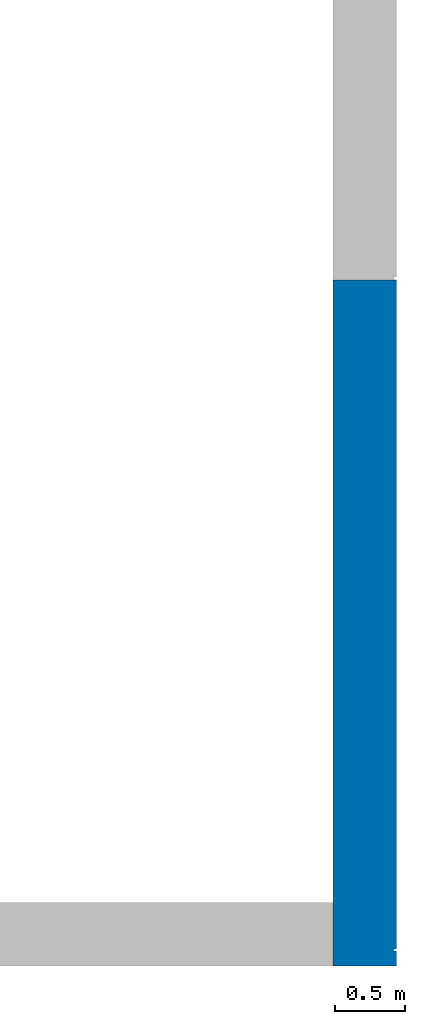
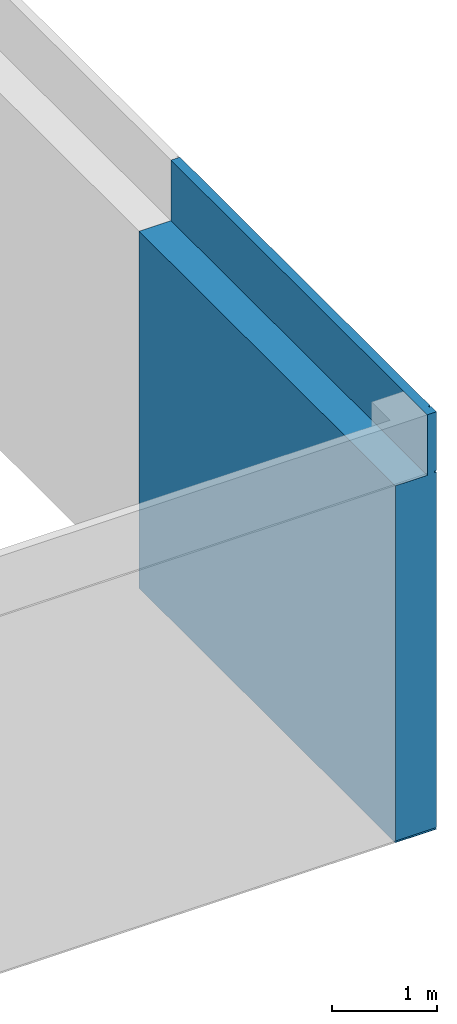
# One storey, part 18 of 33: 1 wall, 3 openings.
"""IFC2X3 building model written with IfcOpenShell, lengths in millimetres."""

from ifc_helpers import new_model, entity, si_unit, converted_unit, derived_unit, direction, frame, frame_2d, origin, origin_2d_with_axis, place, context, subcontext, project, spatial, polyline, rectangle, extrude, clip, bounded_halfspace, faceted_brep, material, layer, layer_set, layer_usage, type_object, element, save


model = new_model("IFC2X3")

# Units and contexts
model_context = context("Model", 3, precision=0.01, world=origin(), true_north=direction((6.12303176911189e-17, 1.0)))
body_context = subcontext(model_context, "Body", "Model", "MODEL_VIEW")
ifc_project = project(units=[si_unit("LENGTHUNIT", "METRE", prefix="MILLI"), si_unit("AREAUNIT", "SQUARE_METRE"), si_unit("VOLUMEUNIT", "CUBIC_METRE"), converted_unit("PLANEANGLEUNIT", "DEGREE", entity("IfcRatioMeasure", 0.0174532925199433), si_unit("PLANEANGLEUNIT", "RADIAN"), dimensions=[0, 0, 0, 0, 0, 0, 0]), si_unit("MASSUNIT", "GRAM", prefix="KILO"), derived_unit("MASSDENSITYUNIT", [(si_unit("MASSUNIT", "GRAM", prefix="KILO"), 1), (si_unit("LENGTHUNIT", "METRE"), -3)]), si_unit("TIMEUNIT", "SECOND"), si_unit("FREQUENCYUNIT", "HERTZ"), si_unit("THERMODYNAMICTEMPERATUREUNIT", "DEGREE_CELSIUS"), derived_unit("THERMALTRANSMITTANCEUNIT", [(si_unit("MASSUNIT", "GRAM", prefix="KILO"), 1), (si_unit("THERMODYNAMICTEMPERATUREUNIT", "KELVIN"), -1), (si_unit("TIMEUNIT", "SECOND"), -3)]), derived_unit("VOLUMETRICFLOWRATEUNIT", [(si_unit("LENGTHUNIT", "METRE"), 3), (si_unit("TIMEUNIT", "SECOND"), -1)]), si_unit("ELECTRICCURRENTUNIT", "AMPERE"), si_unit("ELECTRICVOLTAGEUNIT", "VOLT"), si_unit("POWERUNIT", "WATT"), si_unit("FORCEUNIT", "NEWTON", prefix="KILO"), si_unit("ILLUMINANCEUNIT", "LUX"), si_unit("LUMINOUSFLUXUNIT", "LUMEN"), si_unit("LUMINOUSINTENSITYUNIT", "CANDELA"), derived_unit("USERDEFINED", [(si_unit("MASSUNIT", "GRAM", prefix="KILO"), -1), (si_unit("LENGTHUNIT", "METRE"), -2), (si_unit("TIMEUNIT", "SECOND"), 3), (si_unit("LUMINOUSFLUXUNIT", "LUMEN"), 1)]), derived_unit("LINEARVELOCITYUNIT", [(si_unit("LENGTHUNIT", "METRE"), 1), (si_unit("TIMEUNIT", "SECOND"), -1)]), si_unit("PRESSUREUNIT", "PASCAL"), derived_unit("USERDEFINED", [(si_unit("LENGTHUNIT", "METRE"), -2), (si_unit("MASSUNIT", "GRAM", prefix="KILO"), 1), (si_unit("TIMEUNIT", "SECOND"), -2)])], contexts=[model_context])

# Site, building, storey
site_placement = place(None, origin())
site = spatial("IfcSite", under=ifc_project, at=site_placement, Name="Default", CompositionType="ELEMENT")
building_placement = place(site_placement, origin())
building = spatial("IfcBuilding", under=site, at=building_placement, CompositionType="ELEMENT")
storey_placement = place(building_placement, frame((0.0, 0.0, 4000.0)))
storey = spatial("IfcBuildingStorey", under=building, at=storey_placement, Name="2. KORRUS", CompositionType="ELEMENT", Elevation=4000.0)

# Wall, openings
ifc_material_1 = material(Name="RECKLI 1 173 THUR by Polantis 2016-toon4")
ifc_layer_1 = layer(ifc_material_1, 100.0)
ifc_material_2 = material(Name="Soojusisolatsioon EPS")
ifc_layer_2 = layer(ifc_material_2, 200.0)
ifc_material_3 = material(Name="r/b")
ifc_layer_3 = layer(ifc_material_3, 150.0)
ifc_layer_set = layer_set([ifc_layer_1, ifc_layer_2, ifc_layer_3], Name="Basic Wall:VS-1_toon-a")
ifc_layer_usage = layer_usage(ifc_layer_set, "AXIS2", "NEGATIVE", 225.0)
wall_type = type_object("IfcWallType", Name="Basic Wall:VS-1_toon-a", PredefinedType="STANDARD", material=ifc_layer_set)
wall_placement = place(storey_placement, frame((39725.0, 4415.0, -135.0), z_axis=(0.0, 0.0, 1.0), x_axis=(0.0, -1.0, 0.0)))
wall = element("IfcWallStandardCase", 1, at=wall_placement, inside=storey, type_object=wall_type, material=ifc_layer_usage, Name="Basic Wall:VS-1_toon-a", ObjectType="Basic Wall:VS-1_toon-a", context=body_context, shape_type="Clipping", body=[
    clip(extrude(rectangle(XDim=4865.0, YDim=450.000000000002, at=frame_2d((2432.5, -3.5527136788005e-13), x_axis=(-1.0, 0.0))), origin(), (0.0, 0.0, 1.0), 4835.0), bounded_halfspace(frame((0.0, -225.0, 4135.0), z_axis=(0.0, 0.0, 1.0), x_axis=(0.0, 1.0, 0.0)), False, frame((0.0, -225.0, 4135.0)), polyline([(0.0, 0.0), (4415.0, 0.0), (4865.0, 0.0), (4865.0, 350.0), (4765.0, 350.0), (0.0, 350.0), (0.0, 0.0)]))),
])
opening_1_placement = place(wall_placement, origin())
element("IfcOpeningElement", 2, at=opening_1_placement, cuts=wall, Name="Basic Wall:VS-1_toon-a", ObjectType="Recess", context=body_context, shape_type="SweptSolid", body=[
    extrude(rectangle(XDim=4265.0, YDim=16.0, at=origin_2d_with_axis()), frame((4752.99988172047, 205.0, -2132.5), z_axis=(0.0, 1.0, 0.0), x_axis=(0.0, 0.0, 1.0)), (0.0, 0.0, 1.0), 20.0000000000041),
    extrude(rectangle(XDim=4835.0, YDim=16.0, at=frame_2d((2.27373675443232e-13, 0.0), x_axis=(1.0, 0.0))), frame((4752.99988172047, 205.0, 2417.5), z_axis=(0.0, 1.0, 0.0), x_axis=(0.0, 0.0, 1.0)), (0.0, 0.0, 1.0), 20.0000000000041),
])
opening_2_placement = place(wall_placement, frame((4865.0, -40175.0, 4.0)))
element("IfcOpeningElement", 3, at=opening_2_placement, cuts=wall, Name="Basic Wall:VS-1_toon-a", ObjectType="Opening", context=body_context, shape_type="Brep", body=[
    faceted_brep([(-20.0, 11850.0, 16.0), (0.0, 11850.0, 16.0), (0.0, 11850.0, 0.0), (-20.0, 11850.0, 0.0), (-20.0, 4260.0, 16.0), (-20.0, 4260.0, 0.0), (0.0, 4260.0, 0.0), (0.0, 4260.0, 16.0)], [[[0, 1, 2, 3]], [[4, 5, 6, 7]], [[1, 0, 4, 7]], [[2, 1, 7, 6]], [[3, 2, 6, 5]], [[0, 3, 5, 4]]]),
    faceted_brep([(-28480.0, 20.0, 16.0), (-28480.0, 20.0, 0.0), (-28500.0, 0.0, 0.0), (-28500.0, 0.0, 16.0), (-23740.0, 20.0, 16.0), (-23740.0, 0.0, 16.0), (-23740.0, 0.0, 0.0), (-23740.0, 20.0, 0.0)], [[[0, 1, 2, 3]], [[4, 5, 6, 7]], [[1, 0, 4, 7]], [[2, 1, 7, 6]], [[3, 2, 6, 5]], [[0, 3, 5, 4]]]),
    faceted_brep([(-22380.0517807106, 10080.0, 16.0), (-22400.0517807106, 10100.0, 16.0), (-22400.0517807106, 10100.0, 0.0), (-22380.0517807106, 10080.0, 0.0), (-22380.0517807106, 15330.3475962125, 16.0), (-22380.0517807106, 15330.3475962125, 0.0), (-22400.0517807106, 15330.3475962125, 0.0), (-22400.0517807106, 15330.3475962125, 16.0)], [[[0, 1, 2, 3]], [[4, 5, 6, 7]], [[1, 0, 4, 7]], [[2, 1, 7, 6]], [[3, 2, 6, 5]], [[0, 3, 5, 4]]]),
    faceted_brep([(-28480.0, 20.0, 16.0), (-28500.0, 0.0, 16.0), (-28500.0, 0.0, 0.0), (-28480.0, 20.0, 0.0), (-28480.0, 4360.0, 16.0), (-28480.0, 4360.0, 0.0), (-28500.0, 4360.0, 0.0), (-28500.0, 4360.0, 16.0)], [[[0, 1, 2, 3]], [[4, 5, 6, 7]], [[1, 0, 4, 7]], [[2, 1, 7, 6]], [[3, 2, 6, 5]], [[0, 3, 5, 4]]]),
    faceted_brep([(-20.0, 40380.0, 16.0), (0.0, 40400.0, 16.0), (0.0, 40400.0, 0.0), (-20.0, 40380.0, 0.0), (-20.0, 35250.0, 16.0), (-20.0, 35250.0, 0.0), (0.0, 35250.0, 0.0), (0.0, 35250.0, 16.0)], [[[0, 1, 2, 3]], [[4, 5, 6, 7]], [[1, 0, 4, 7]], [[2, 1, 7, 6]], [[3, 2, 6, 5]], [[0, 3, 5, 4]]]),
    faceted_brep([(-22380.0517807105, 34420.1035702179, 16.0), (-22400.0517807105, 34420.1035702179, 16.0), (-22400.0517807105, 34420.1035702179, 0.0), (-22380.0517807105, 34420.1035702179, 0.0), (-22380.0517807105, 40380.0, 16.0), (-22380.0517807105, 40380.0, 0.0), (-22400.0517807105, 40400.0, 0.0), (-22400.0517807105, 40400.0, 16.0)], [[[0, 1, 2, 3]], [[4, 5, 6, 7]], [[1, 0, 4, 7]], [[2, 1, 7, 6]], [[3, 2, 6, 5]], [[0, 3, 5, 4]]]),
    faceted_brep([(-22380.0517807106, 29113.2161487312, 16.0), (-22400.0517807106, 29113.2161487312, 16.0), (-22400.0517807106, 29113.2161487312, 0.0), (-22380.0517807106, 29113.2161487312, 0.0), (-22380.0517807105, 34420.1035702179, 16.0), (-22380.0517807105, 34420.1035702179, 0.0), (-22400.0517807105, 34420.1035702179, 0.0), (-22400.0517807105, 34420.1035702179, 16.0)], [[[0, 1, 2, 3]], [[4, 5, 6, 7]], [[1, 0, 4, 7]], [[2, 1, 7, 6]], [[3, 2, 6, 5]], [[0, 3, 5, 4]]]),
    faceted_brep([(-28480.0, 10080.0, 16.0), (-28500.0, 10100.0, 16.0), (-28500.0, 10100.0, 0.0), (-28480.0, 10080.0, 0.0), (-22380.0517807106, 10080.0, 16.0), (-22380.0517807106, 10080.0, 0.0), (-22400.0517807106, 10100.0, 0.0), (-22400.0517807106, 10100.0, 16.0)], [[[0, 1, 2, 3]], [[4, 5, 6, 7]], [[1, 0, 4, 7]], [[2, 1, 7, 6]], [[3, 2, 6, 5]], [[0, 3, 5, 4]]]),
    faceted_brep([(-20.0, 4260.0, 16.0), (0.0, 4260.0, 16.0), (0.0, 4260.0, 0.0), (-20.0, 4260.0, 0.0), (-20.0, 0.0, 16.0), (-20.0, 0.0, 0.0), (0.0, 0.0, 0.0), (0.0, 0.0, 16.0)], [[[0, 1, 2, 3]], [[4, 5, 6, 7]], [[1, 0, 4, 7]], [[2, 1, 7, 6]], [[3, 2, 6, 5]], [[0, 3, 5, 4]]]),
    faceted_brep([(-4865.0, 40380.0, 16.0), (-4865.0, 40400.0, 16.0), (-4865.0, 40400.0, 0.0), (-4865.0, 40380.0, 0.0), (-20.0, 40380.0, 16.0), (-20.0, 40380.0, 0.0), (0.0, 40400.0, 0.0), (0.0, 40400.0, 16.0)], [[[0, 1, 2, 3]], [[4, 5, 6, 7]], [[1, 0, 4, 7]], [[2, 1, 7, 6]], [[3, 2, 6, 5]], [[0, 3, 5, 4]]]),
    faceted_brep([(-9093.3300000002, 40380.0, 16.0), (-9093.3300000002, 40400.0, 16.0), (-9093.3300000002, 40400.0, 0.0), (-9093.3300000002, 40380.0, 0.0), (-4865.0, 40380.0, 16.0), (-4865.0, 40380.0, 0.0), (-4865.0, 40400.0, 0.0), (-4865.0, 40400.0, 16.0)], [[[0, 1, 2, 3]], [[4, 5, 6, 7]], [[1, 0, 4, 7]], [[2, 1, 7, 6]], [[3, 2, 6, 5]], [[0, 3, 5, 4]]]),
    faceted_brep([(-13210.0, 40380.0, 16.0), (-13210.0, 40400.0, 16.0), (-13210.0, 40400.0, 0.0), (-13210.0, 40380.0, 0.0), (-9093.3300000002, 40380.0, 16.0), (-9093.3300000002, 40380.0, 0.0), (-9093.3300000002, 40400.0, 0.0), (-9093.3300000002, 40400.0, 16.0)], [[[0, 1, 2, 3]], [[4, 5, 6, 7]], [[1, 0, 4, 7]], [[2, 1, 7, 6]], [[3, 2, 6, 5]], [[0, 3, 5, 4]]]),
    faceted_brep([(-16240.0, 40380.0, 16.0), (-16240.0, 40400.0, 16.0), (-16240.0, 40400.0, 0.0), (-16240.0, 40380.0, 0.0), (-13210.0, 40380.0, 16.0), (-13210.0, 40380.0, 0.0), (-13210.0, 40400.0, 0.0), (-13210.0, 40400.0, 16.0)], [[[0, 1, 2, 3]], [[4, 5, 6, 7]], [[1, 0, 4, 7]], [[2, 1, 7, 6]], [[3, 2, 6, 5]], [[0, 3, 5, 4]]]),
    faceted_brep([(-22380.0517807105, 40380.0, 16.0), (-22400.0517807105, 40400.0, 16.0), (-22400.0517807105, 40400.0, 0.0), (-22380.0517807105, 40380.0, 0.0), (-16240.0, 40380.0, 16.0), (-16240.0, 40380.0, 0.0), (-16240.0, 40400.0, 0.0), (-16240.0, 40400.0, 16.0)], [[[0, 1, 2, 3]], [[4, 5, 6, 7]], [[1, 0, 4, 7]], [[2, 1, 7, 6]], [[3, 2, 6, 5]], [[0, 3, 5, 4]]]),
    faceted_brep([(-22380.0517807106, 22535.0, 16.0), (-22400.0517807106, 22535.0, 16.0), (-22400.0517807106, 22535.0, 0.0), (-22380.0517807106, 22535.0, 0.0), (-22380.0517807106, 29113.2161487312, 16.0), (-22380.0517807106, 29113.2161487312, 0.0), (-22400.0517807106, 29113.2161487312, 0.0), (-22400.0517807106, 29113.2161487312, 16.0)], [[[0, 1, 2, 3]], [[4, 5, 6, 7]], [[1, 0, 4, 7]], [[2, 1, 7, 6]], [[3, 2, 6, 5]], [[0, 3, 5, 4]]]),
    faceted_brep([(-22380.0517807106, 18703.3528910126, 16.0), (-22400.0517807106, 18703.3528910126, 16.0), (-22400.0517807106, 18703.3528910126, 0.0), (-22380.0517807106, 18703.3528910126, 0.0), (-22380.0517807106, 22535.0, 16.0), (-22380.0517807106, 22535.0, 0.0), (-22400.0517807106, 22535.0, 0.0), (-22400.0517807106, 22535.0, 16.0)], [[[0, 1, 2, 3]], [[4, 5, 6, 7]], [[1, 0, 4, 7]], [[2, 1, 7, 6]], [[3, 2, 6, 5]], [[0, 3, 5, 4]]]),
    faceted_brep([(-22380.0517807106, 15330.3475962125, 16.0), (-22400.0517807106, 15330.3475962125, 16.0), (-22400.0517807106, 15330.3475962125, 0.0), (-22380.0517807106, 15330.3475962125, 0.0), (-22380.0517807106, 18703.3528910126, 16.0), (-22380.0517807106, 18703.3528910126, 0.0), (-22400.0517807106, 18703.3528910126, 0.0), (-22400.0517807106, 18703.3528910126, 16.0)], [[[0, 1, 2, 3]], [[4, 5, 6, 7]], [[1, 0, 4, 7]], [[2, 1, 7, 6]], [[3, 2, 6, 5]], [[0, 3, 5, 4]]]),
    faceted_brep([(-28480.0, 4360.0, 16.0), (-28500.0, 4360.0, 16.0), (-28500.0, 4360.0, 0.0), (-28480.0, 4360.0, 0.0), (-28480.0, 10080.0, 16.0), (-28480.0, 10080.0, 0.0), (-28500.0, 10100.0, 0.0), (-28500.0, 10100.0, 16.0)], [[[0, 1, 2, 3]], [[4, 5, 6, 7]], [[1, 0, 4, 7]], [[2, 1, 7, 6]], [[3, 2, 6, 5]], [[0, 3, 5, 4]]]),
    faceted_brep([(-23740.0, 20.0, 16.0), (-23740.0, 20.0, 0.0), (-23740.0, 0.0, 0.0), (-23740.0, 0.0, 16.0), (-16890.0006972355, 20.0, 16.0), (-16890.0006972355, 0.0, 16.0), (-16890.0006972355, 0.0, 0.0), (-16890.0006972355, 20.0, 0.0)], [[[0, 1, 2, 3]], [[4, 5, 6, 7]], [[1, 0, 4, 7]], [[2, 1, 7, 6]], [[3, 2, 6, 5]], [[0, 3, 5, 4]]]),
    faceted_brep([(-16890.0006972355, 20.0, 16.0), (-16890.0006972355, 20.0, 0.0), (-16890.0006972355, 0.0, 0.0), (-16890.0006972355, 0.0, 16.0), (-13460.0, 20.0, 16.0), (-13460.0, 0.0, 16.0), (-13460.0, 0.0, 0.0), (-13460.0, 20.0, 0.0)], [[[0, 1, 2, 3]], [[4, 5, 6, 7]], [[1, 0, 4, 7]], [[2, 1, 7, 6]], [[3, 2, 6, 5]], [[0, 3, 5, 4]]]),
])
opening_3_placement = place(wall_placement, origin())
element("IfcOpeningElement", 4, at=opening_3_placement, cuts=wall, Name="Basic Wall:VS-1_toon-a", ObjectType="Recess", context=body_context, shape_type="SweptSolid", body=[
    extrude(rectangle(XDim=15.9999999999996, YDim=20.0, at=frame_2d((-3.37507799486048e-14, 5.40900657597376e-13), x_axis=(0.0, 1.0))), frame((4855.0, -35915.0, 4147.0), z_axis=(0.0, 1.0, 0.0), x_axis=(1.0, 0.0, 0.0)), (0.0, 0.0, 1.0), 7590.0),
    extrude(rectangle(XDim=15.9999999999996, YDim=4660.0, at=frame_2d((-2.27373675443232e-12, 5.40900657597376e-13), x_axis=(0.0, 1.0))), frame((-21205.0, -40175.0, 4147.0), z_axis=(0.0, 1.0, 0.0), x_axis=(1.0, 0.0, 0.0)), (0.0, 0.0, 1.0), 20.0000000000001),
    extrude(rectangle(XDim=15.9999999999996, YDim=19.9999999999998, at=frame_2d((5.40900657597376e-13, -2.16626716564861e-12), x_axis=(1.0, 0.0))), frame((-17525.0517807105, -30075.0, 4147.0), z_axis=(0.0, 1.0, 0.0), x_axis=(0.0, 0.0, -1.0)), (0.0, 0.0, 1.0), 5230.3475962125),
    extrude(rectangle(XDim=15.9999999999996, YDim=19.9999999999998, at=frame_2d((5.40900657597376e-13, -2.16626716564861e-12), x_axis=(1.0, 0.0))), frame((-23625.0, -40175.0, 4147.0), z_axis=(0.0, 1.0, 0.0), x_axis=(0.0, 0.0, -1.0)), (0.0, 0.0, 1.0), 4360.0),
    extrude(rectangle(XDim=15.9999999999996, YDim=20.0, at=frame_2d((-3.37507799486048e-14, -5.40900657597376e-13), x_axis=(0.0, 1.0))), frame((4855.0, -4925.0, 4147.0), z_axis=(0.0, 1.0, 0.0), x_axis=(1.0, 0.0, 0.0)), (0.0, 0.0, 1.0), 5050.0),
    extrude(rectangle(XDim=15.9999999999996, YDim=19.9999999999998, at=frame_2d((5.40900657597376e-13, -2.16626716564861e-12), x_axis=(1.0, 0.0))), frame((-17525.0517807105, -5754.89642978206, 4147.0), z_axis=(0.0, 1.0, 0.0), x_axis=(0.0, 0.0, -1.0)), (0.0, 0.0, 1.0), 5979.89642978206),
    extrude(rectangle(XDim=15.9999999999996, YDim=19.9999999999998, at=frame_2d((5.40900657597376e-13, -2.16626716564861e-12), x_axis=(1.0, 0.0))), frame((-17525.0517807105, -11061.7838512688, 4147.0), z_axis=(0.0, 1.0, 0.0), x_axis=(0.0, 0.0, -1.0)), (0.0, 0.0, 1.0), 5306.88742148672),
    extrude(rectangle(XDim=15.9999999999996, YDim=6099.94821928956, at=frame_2d((0.0, 0.0), x_axis=(0.0, 1.0))), frame((-20485.0258903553, -30095.0, 4147.0), z_axis=(0.0, 1.0, 0.0), x_axis=(1.0, 0.0, 0.0)), (0.0, 0.0, 1.0), 19.9999999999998),
    extrude(rectangle(XDim=15.9999999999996, YDim=20.0, at=frame_2d((-3.37507799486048e-14, 5.40900657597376e-13), x_axis=(0.0, 1.0))), frame((4855.0, -40075.0, 4147.0), z_axis=(0.0, 1.0, 0.0), x_axis=(1.0, 0.0, 0.0)), (0.0, 0.0, 1.0), 4160.00000000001),
    extrude(rectangle(XDim=15.9999999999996, YDim=4865.0, at=frame_2d((0.0, 5.40900657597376e-13), x_axis=(0.0, 1.0))), frame((2432.5, 205.0, 4147.0), z_axis=(0.0, 1.0, 0.0), x_axis=(1.0, 0.0, 0.0)), (0.0, 0.0, 1.0), 20.0000000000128),
    extrude(rectangle(XDim=15.9999999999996, YDim=4228.33000000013, at=frame_2d((0.0, 0.0), x_axis=(0.0, 1.0))), frame((-2114.16500000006, 205.0, 4147.0), z_axis=(0.0, 1.0, 0.0), x_axis=(1.0, 0.0, 0.0)), (0.0, 0.0, 1.0), 20.0000000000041),
    extrude(rectangle(XDim=15.9999999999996, YDim=4236.66999997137, at=frame_2d((1.13686837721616e-12, 0.0), x_axis=(0.0, 1.0))), frame((-6346.66499998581, 205.0, 4147.0), z_axis=(0.0, 1.0, 0.0), x_axis=(1.0, 0.0, 0.0)), (0.0, 0.0, 1.0), 19.9999999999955),
    extrude(rectangle(XDim=15.9999999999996, YDim=2910.00000002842, at=frame_2d((2.1600499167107e-12, 5.40900657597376e-13), x_axis=(0.0, 1.0))), frame((-9920.0, 205.0, 4147.0), z_axis=(0.0, 1.0, 0.0), x_axis=(1.0, 0.0, 0.0)), (0.0, 0.0, 1.0), 20.0000000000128),
    extrude(rectangle(XDim=15.9999999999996, YDim=6060.05178071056, at=frame_2d((0.0, 0.0), x_axis=(0.0, 1.0))), frame((-14405.0258903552, 205.0, 4147.0), z_axis=(0.0, 1.0, 0.0), x_axis=(1.0, 0.0, 0.0)), (0.0, 0.0, 1.0), 19.9999999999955),
    extrude(rectangle(XDim=15.9999999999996, YDim=19.9999999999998, at=frame_2d((5.40900657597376e-13, -2.16626716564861e-12), x_axis=(1.0, 0.0))), frame((-17525.0517807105, -21471.6471089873, 4147.0), z_axis=(0.0, 1.0, 0.0), x_axis=(0.0, 0.0, -1.0)), (0.0, 0.0, 1.0), 3831.64710898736),
    extrude(rectangle(XDim=15.9999999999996, YDim=19.9999999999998, at=frame_2d((5.40900657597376e-13, -2.16626716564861e-12), x_axis=(1.0, 0.0))), frame((-17525.0517807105, -24844.6524037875, 4147.0), z_axis=(0.0, 1.0, 0.0), x_axis=(0.0, 0.0, -1.0)), (0.0, 0.0, 1.0), 3373.00529480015),
    extrude(rectangle(XDim=15.9999999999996, YDim=19.9999999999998, at=frame_2d((5.40900657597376e-13, 2.16626716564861e-12), x_axis=(1.0, 0.0))), frame((-23625.0, -35815.0, 4147.0), z_axis=(0.0, 1.0, 0.0), x_axis=(0.0, 0.0, -1.0)), (0.0, 0.0, 1.0), 5739.99999999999),
    extrude(rectangle(XDim=15.9999999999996, YDim=6849.99930276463, at=frame_2d((1.13686837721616e-12, 5.40900657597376e-13), x_axis=(0.0, 1.0))), frame((-15450.0003486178, -40175.0, 4147.0), z_axis=(0.0, 1.0, 0.0), x_axis=(1.0, 0.0, 0.0)), (0.0, 0.0, 1.0), 20.0),
    extrude(rectangle(XDim=15.9999999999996, YDim=3430.00069726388, at=frame_2d((1.02318153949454e-12, 5.40900657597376e-13), x_axis=(0.0, 1.0))), frame((-10310.0003486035, -40175.0, 4147.0), z_axis=(0.0, 1.0, 0.0), x_axis=(1.0, 0.0, 0.0)), (0.0, 0.0, 1.0), 20.0000000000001),
    extrude(rectangle(XDim=15.9999999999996, YDim=19.9999999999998, at=frame_2d((5.40900657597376e-13, -2.16626716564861e-12), x_axis=(1.0, 0.0))), frame((-17525.0517807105, -17640.0, 4147.0), z_axis=(0.0, 1.0, 0.0), x_axis=(0.0, 0.0, -1.0)), (0.0, 0.0, 1.0), 6578.21614873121),
    extrude(rectangle(XDim=15.9999999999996, YDim=20.0, at=frame_2d((-3.37507799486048e-14, 5.40900657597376e-13), x_axis=(0.0, 1.0))), frame((4855.0, -28325.0, 4147.0), z_axis=(0.0, 1.0, 0.0), x_axis=(1.0, 0.0, 0.0)), (0.0, 0.0, 1.0), 4110.00000000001),
    extrude(rectangle(XDim=15.9999999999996, YDim=20.0, at=frame_2d((-3.37507799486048e-14, 5.40900657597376e-13), x_axis=(0.0, 1.0))), frame((4855.0, -24215.0, 4147.0), z_axis=(0.0, 1.0, 0.0), x_axis=(1.0, 0.0, 0.0)), (0.0, 0.0, 1.0), 4600.0),
    extrude(rectangle(XDim=15.9999999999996, YDim=20.0, at=frame_2d((3.37507799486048e-14, 5.40900657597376e-13), x_axis=(0.0, 1.0))), frame((4855.0, -19615.0, 4147.0), z_axis=(0.0, 1.0, 0.0), x_axis=(1.0, 0.0, 0.0)), (0.0, 0.0, 1.0), 4600.0),
    extrude(rectangle(XDim=15.9999999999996, YDim=20.0, at=frame_2d((3.37507799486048e-14, 5.40900657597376e-13), x_axis=(0.0, 1.0))), frame((4855.0, -15015.0, 4147.0), z_axis=(0.0, 1.0, 0.0), x_axis=(1.0, 0.0, 0.0)), (0.0, 0.0, 1.0), 5299.99999999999),
    extrude(rectangle(XDim=15.9999999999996, YDim=20.0, at=frame_2d((-3.37507799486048e-14, 5.40900657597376e-13), x_axis=(0.0, 1.0))), frame((4855.0, -9715.0, 4147.0), z_axis=(0.0, 1.0, 0.0), x_axis=(1.0, 0.0, 0.0)), (0.0, 0.0, 1.0), 4790.0),
    extrude(rectangle(XDim=15.9999999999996, YDim=4724.85920481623, at=frame_2d((6.82121026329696e-13, 5.40900657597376e-13), x_axis=(0.0, 1.0))), frame((-6232.57039756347, -40175.0, 4147.0), z_axis=(0.0, 1.0, 0.0), x_axis=(1.0, 0.0, 0.0)), (0.0, 0.0, 1.0), 20.0000000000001),
    extrude(rectangle(XDim=15.9999999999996, YDim=8735.1407951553, at=frame_2d((0.0, 5.40900657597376e-13), x_axis=(0.0, 1.0))), frame((497.42960242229, -40175.0, 4147.0), z_axis=(0.0, 1.0, 0.0), x_axis=(1.0, 0.0, 0.0)), (0.0, 0.0, 1.0), 20.0),
])

save(model, "model.ifc")
